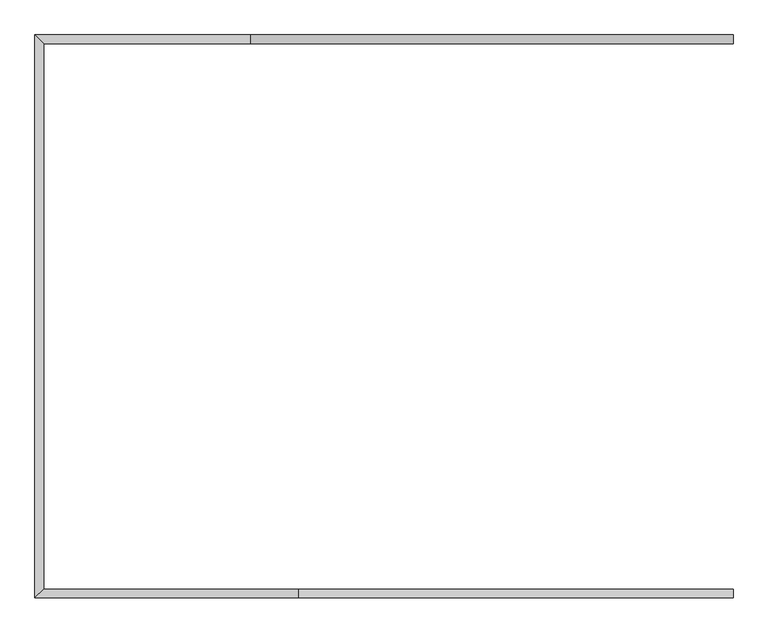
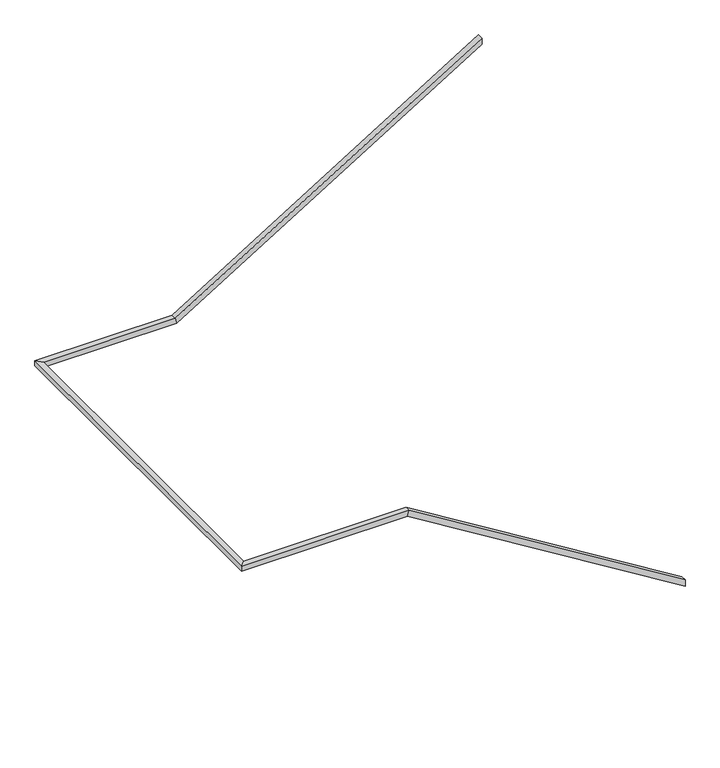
"""IFC4 building model written with IfcOpenShell, lengths in millimetres: railing geometry, 900mm 方管."""

from ifc_helpers import new_model, si_unit, origin, place, context, project, spatial, faceted_brep, source, transform, mapped, element, save


def railing_852c1a86(model_context):
    return source(origin(), model_context, "Body", "Brep", [
        faceted_brep([(-68380.569844, 208.032646, 1072.5), (-68380.569844, 208.032646, 1013.7730044), (-68380.569844, 258.032646, 1013.7730044), (-68380.569844, 258.032646, 1072.5), (-70900.569844, 208.032646, 2625.0), (-70914.7354021, 208.032646, 2575.0), (-70914.7354021, 258.032646, 2575.0), (-70900.569844, 258.032646, 2625.0), (-72431.569844, 208.032646, 2625.0), (-72431.569844, 208.032646, 2575.0), (-72381.569844, 258.032646, 2575.0), (-72381.569844, 258.032646, 2625.0), (-72431.569844, 3474.0864879, 2625.0), (-72431.569844, 3474.0864879, 2575.0), (-72381.569844, 3424.0864879, 2575.0), (-72381.569844, 3424.0864879, 2625.0), (-71180.569844, 3474.0864879, 2625.0), (-71166.4042859, 3474.0864879, 2575.0), (-71166.4042859, 3424.0864879, 2575.0), (-71180.569844, 3424.0864879, 2625.0), (-68380.569844, 3474.0864879, 4350.0), (-68380.569844, 3424.0864879, 4350.0), (-68380.569844, 3424.0864879, 4291.2730044), (-68380.569844, 3474.0864879, 4291.2730044)], [[[0, 1, 2, 3]], [[1, 0, 4, 5]], [[2, 1, 5, 6]], [[3, 2, 6, 7]], [[0, 3, 7, 4]], [[5, 4, 8, 9]], [[6, 5, 9, 10]], [[7, 6, 10, 11]], [[4, 7, 11, 8]], [[9, 8, 12, 13]], [[10, 9, 13, 14]], [[11, 10, 14, 15]], [[8, 11, 15, 12]], [[13, 12, 16, 17]], [[14, 13, 17, 18]], [[15, 14, 18, 19]], [[12, 15, 19, 16]], [[20, 21, 22, 23]], [[17, 16, 20, 23]], [[18, 17, 23, 22]], [[19, 18, 22, 21]], [[16, 19, 21, 20]]]),
    ])


if __name__ == "__main__":
    model = new_model("IFC4")
    model_context = context("Model", 3, world=origin())
    ifc_project = project(units=[si_unit("LENGTHUNIT", "METRE", prefix="MILLI")], contexts=[model_context])
    site = spatial("IfcSite", under=ifc_project)
    building = spatial("IfcBuilding", under=site)
    placement = place(None, origin())
    railing_shape = railing_852c1a86(model_context)
    element("IfcRailing", 1, ObjectType="900mm 方管", at=placement, inside=building, context=model_context, shape_type="MappedRepresentation", body=[
        mapped(railing_shape, transform((0.0, 0.0, 0.0), x_axis=(1.0, 0.0, 0.0), y_axis=(0.0, 1.0, 0.0), z_axis=(0.0, 0.0, 1.0))),
    ])
    save(model, "model.ifc")
